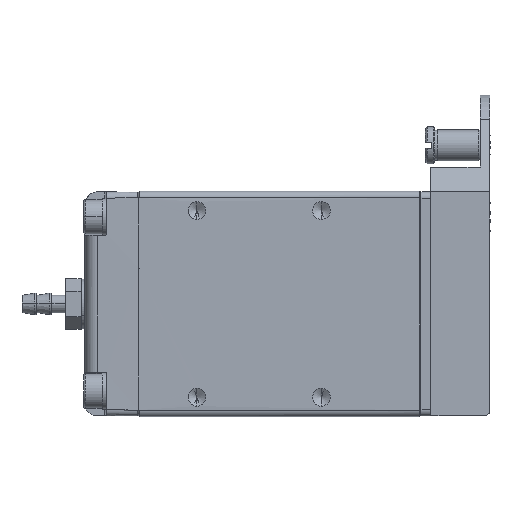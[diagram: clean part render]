
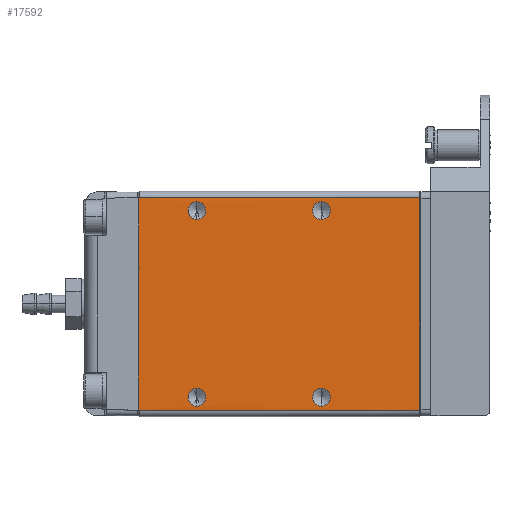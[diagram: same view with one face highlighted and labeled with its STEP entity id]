
A CAD part, left-side view. The second image highlights one B-rep face of the part: STEP entity #17592.
In plain terms, the highlighted planar face has unit normal (-1, 0, 0).
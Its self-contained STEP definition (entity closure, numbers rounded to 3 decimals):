
#541 = VERTEX_POINT ( 'NONE', #9809 ) ;
#1037 = EDGE_CURVE ( 'NONE', #17388, #11892, #30082, .T. ) ;
#1359 = PLANE ( 'NONE',  #20688 ) ;
#1449 = DIRECTION ( 'NONE',  ( 0., 0., -1. ) ) ;
#1519 = FACE_BOUND ( 'NONE', #6124, .T. ) ;
#1697 = EDGE_LOOP ( 'NONE', ( #7809, #28537 ) ) ;
#2079 = CARTESIAN_POINT ( 'NONE',  ( -14., 36., 15. ) ) ;
#2384 = CARTESIAN_POINT ( 'NONE',  ( -14., 16., -16.425 ) ) ;
#2902 = VECTOR ( 'NONE', #16754, 1000. ) ;
#2969 = DIRECTION ( 'NONE',  ( 1., 0., 0. ) ) ;
#3069 = ORIENTED_EDGE ( 'NONE', *, *, #13113, .T. ) ;
#3389 = EDGE_CURVE ( 'NONE', #8843, #16800, #18926, .T. ) ;
#3673 = ORIENTED_EDGE ( 'NONE', *, *, #26637, .T. ) ;
#3884 = CARTESIAN_POINT ( 'NONE',  ( -14., 16., 15. ) ) ;
#3919 = DIRECTION ( 'NONE',  ( 1., 0., 0. ) ) ;
#3974 = DIRECTION ( 'NONE',  ( 0., 0., -1. ) ) ;
#3977 = CARTESIAN_POINT ( 'NONE',  ( -14., 0.2, 0. ) ) ;
#4112 = CARTESIAN_POINT ( 'NONE',  ( -14., 16., 13.575 ) ) ;
#4431 = DIRECTION ( 'NONE',  ( 0., 0., -1. ) ) ;
#4951 = DIRECTION ( 'NONE',  ( 0., 0., -1. ) ) ;
#6124 = EDGE_LOOP ( 'NONE', ( #25286, #7698 ) ) ;
#6283 = CIRCLE ( 'NONE', #13364, 1.425 ) ;
#6350 = DIRECTION ( 'NONE',  ( 0., 0., 1. ) ) ;
#6601 = DIRECTION ( 'NONE',  ( 0., 0., -1. ) ) ;
#6634 = DIRECTION ( 'NONE',  ( 1., 0., 0. ) ) ;
#6636 = CARTESIAN_POINT ( 'NONE',  ( -14., 16., -15. ) ) ;
#6741 = LINE ( 'NONE', #20131, #18673 ) ;
#6811 = CARTESIAN_POINT ( 'NONE',  ( -13.937, 45.423, -17.07 ) ) ;
#6916 = CIRCLE ( 'NONE', #17777, 1.425 ) ;
#7216 = VERTEX_POINT ( 'NONE', #11667 ) ;
#7698 = ORIENTED_EDGE ( 'NONE', *, *, #3389, .T. ) ;
#7809 = ORIENTED_EDGE ( 'NONE', *, *, #9610, .T. ) ;
#7827 = FACE_BOUND ( 'NONE', #1697, .T. ) ;
#8642 = CIRCLE ( 'NONE', #25520, 1.425 ) ;
#8671 = CIRCLE ( 'NONE', #27847, 1.425 ) ;
#8715 = ORIENTED_EDGE ( 'NONE', *, *, #15829, .T. ) ;
#8812 = VECTOR ( 'NONE', #4951, 1000. ) ;
#8843 = VERTEX_POINT ( 'NONE', #11502 ) ;
#8906 = AXIS2_PLACEMENT_3D ( 'NONE', #2079, #18700, #4431 ) ;
#8909 = VERTEX_POINT ( 'NONE', #21066 ) ;
#9610 = EDGE_CURVE ( 'NONE', #7216, #8909, #8671, .T. ) ;
#9809 = CARTESIAN_POINT ( 'NONE',  ( -14., 16., -13.575 ) ) ;
#9907 = LINE ( 'NONE', #14431, #2902 ) ;
#10594 = DIRECTION ( 'NONE',  ( 0., 1., 0. ) ) ;
#11148 = VERTEX_POINT ( 'NONE', #29167 ) ;
#11419 = VERTEX_POINT ( 'NONE', #17459 ) ;
#11488 = CARTESIAN_POINT ( 'NONE',  ( -14., 0.2, -17.1 ) ) ;
#11502 = CARTESIAN_POINT ( 'NONE',  ( -14., 16., 16.425 ) ) ;
#11667 = CARTESIAN_POINT ( 'NONE',  ( -14., 36., -16.425 ) ) ;
#11892 = VERTEX_POINT ( 'NONE', #27267 ) ;
#12207 = AXIS2_PLACEMENT_3D ( 'NONE', #6636, #6634, #6601 ) ;
#12529 = DIRECTION ( 'NONE',  ( 0., 0., -1. ) ) ;
#13113 = EDGE_CURVE ( 'NONE', #541, #23614, #6916, .T. ) ;
#13258 = DIRECTION ( 'NONE',  ( -1., 0., 0. ) ) ;
#13325 = CARTESIAN_POINT ( 'NONE',  ( -14., 36., -15. ) ) ;
#13364 = AXIS2_PLACEMENT_3D ( 'NONE', #13325, #30026, #15767 ) ;
#13460 = AXIS2_PLACEMENT_3D ( 'NONE', #3884, #3919, #3974 ) ;
#13686 = VERTEX_POINT ( 'NONE', #6811 ) ;
#14431 = CARTESIAN_POINT ( 'NONE',  ( -14., 22.75, -17.1 ) ) ;
#14884 = FACE_BOUND ( 'NONE', #19561, .T. ) ;
#15127 = LINE ( 'NONE', #19191, #8812 ) ;
#15661 = DIRECTION ( 'NONE',  ( 1., 0., 0. ) ) ;
#15767 = DIRECTION ( 'NONE',  ( 0., 0., -1. ) ) ;
#15829 = EDGE_CURVE ( 'NONE', #23614, #541, #16420, .T. ) ;
#16420 = CIRCLE ( 'NONE', #12207, 1.425 ) ;
#16754 = DIRECTION ( 'NONE',  ( 0., -1., 0. ) ) ;
#16800 = VERTEX_POINT ( 'NONE', #4112 ) ;
#17258 = EDGE_CURVE ( 'NONE', #19073, #11148, #18275, .T. ) ;
#17290 = DIRECTION ( 'NONE',  ( 0., 0., -1. ) ) ;
#17297 = DIRECTION ( 'NONE',  ( 1., 0., 0. ) ) ;
#17322 = EDGE_LOOP ( 'NONE', ( #25422, #30564 ) ) ;
#17331 = CARTESIAN_POINT ( 'NONE',  ( -14., 16., -15. ) ) ;
#17388 = VERTEX_POINT ( 'NONE', #21270 ) ;
#17426 = AXIS2_PLACEMENT_3D ( 'NONE', #29996, #30125, #30194 ) ;
#17459 = CARTESIAN_POINT ( 'NONE',  ( -13.937, 45.423, 17.07 ) ) ;
#17592 = ADVANCED_FACE ( 'NONE', ( #1519, #20519, #7827, #14884, #26054 ), #1359, .T. ) ;
#17777 = AXIS2_PLACEMENT_3D ( 'NONE', #17331, #17297, #17290 ) ;
#17805 = EDGE_CURVE ( 'NONE', #11892, #17388, #19355, .T. ) ;
#18275 = LINE ( 'NONE', #3977, #19016 ) ;
#18673 = VECTOR ( 'NONE', #10594, 1000. ) ;
#18700 = DIRECTION ( 'NONE',  ( 1., 0., 0. ) ) ;
#18926 = CIRCLE ( 'NONE', #13460, 1.425 ) ;
#19016 = VECTOR ( 'NONE', #6350, 1000. ) ;
#19073 = VERTEX_POINT ( 'NONE', #11488 ) ;
#19191 = CARTESIAN_POINT ( 'NONE',  ( -14., 45.3, 0. ) ) ;
#19355 = CIRCLE ( 'NONE', #8906, 1.425 ) ;
#19561 = EDGE_LOOP ( 'NONE', ( #8715, #3069 ) ) ;
#20131 = CARTESIAN_POINT ( 'NONE',  ( -14., 22.75, 17.1 ) ) ;
#20519 = FACE_BOUND ( 'NONE', #17322, .T. ) ;
#20688 = AXIS2_PLACEMENT_3D ( 'NONE', #27550, #13258, #29952 ) ;
#21066 = CARTESIAN_POINT ( 'NONE',  ( -14., 36., -13.575 ) ) ;
#21219 = EDGE_CURVE ( 'NONE', #16800, #8843, #8642, .T. ) ;
#21270 = CARTESIAN_POINT ( 'NONE',  ( -14., 36., 16.425 ) ) ;
#22289 = EDGE_CURVE ( 'NONE', #8909, #7216, #6283, .T. ) ;
#23614 = VERTEX_POINT ( 'NONE', #2384 ) ;
#23635 = EDGE_LOOP ( 'NONE', ( #26083, #3673, #26207, #28053 ) ) ;
#23669 = EDGE_CURVE ( 'NONE', #11419, #13686, #15127, .T. ) ;
#25286 = ORIENTED_EDGE ( 'NONE', *, *, #21219, .T. ) ;
#25422 = ORIENTED_EDGE ( 'NONE', *, *, #17805, .T. ) ;
#25520 = AXIS2_PLACEMENT_3D ( 'NONE', #29933, #15661, #1449 ) ;
#26054 = FACE_OUTER_BOUND ( 'NONE', #23635, .T. ) ;
#26083 = ORIENTED_EDGE ( 'NONE', *, *, #17258, .T. ) ;
#26207 = ORIENTED_EDGE ( 'NONE', *, *, #23669, .T. ) ;
#26637 = EDGE_CURVE ( 'NONE', #11148, #11419, #6741, .T. ) ;
#27267 = CARTESIAN_POINT ( 'NONE',  ( -14., 36., 13.575 ) ) ;
#27550 = CARTESIAN_POINT ( 'NONE',  ( -14., -4.31, -20.52 ) ) ;
#27847 = AXIS2_PLACEMENT_3D ( 'NONE', #30121, #2969, #12529 ) ;
#28053 = ORIENTED_EDGE ( 'NONE', *, *, #29699, .T. ) ;
#28537 = ORIENTED_EDGE ( 'NONE', *, *, #22289, .T. ) ;
#29167 = CARTESIAN_POINT ( 'NONE',  ( -14., 0.2, 17.1 ) ) ;
#29699 = EDGE_CURVE ( 'NONE', #13686, #19073, #9907, .T. ) ;
#29933 = CARTESIAN_POINT ( 'NONE',  ( -14., 16., 15. ) ) ;
#29952 = DIRECTION ( 'NONE',  ( 0., 0., 1. ) ) ;
#29996 = CARTESIAN_POINT ( 'NONE',  ( -14., 36., 15. ) ) ;
#30026 = DIRECTION ( 'NONE',  ( 1., 0., 0. ) ) ;
#30082 = CIRCLE ( 'NONE', #17426, 1.425 ) ;
#30121 = CARTESIAN_POINT ( 'NONE',  ( -14., 36., -15. ) ) ;
#30125 = DIRECTION ( 'NONE',  ( 1., 0., 0. ) ) ;
#30194 = DIRECTION ( 'NONE',  ( 0., 0., -1. ) ) ;
#30564 = ORIENTED_EDGE ( 'NONE', *, *, #1037, .T. ) ;
